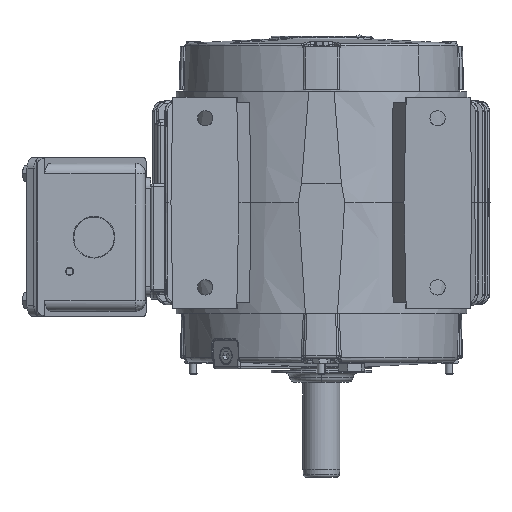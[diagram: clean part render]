
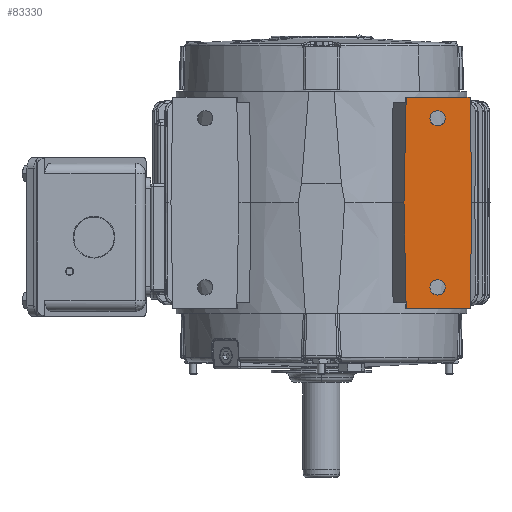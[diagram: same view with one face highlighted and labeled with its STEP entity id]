
A CAD part, front view. The second image highlights one B-rep face of the part: STEP entity #83330.
In plain terms, the highlighted planar face has unit normal (0, -1, 0).
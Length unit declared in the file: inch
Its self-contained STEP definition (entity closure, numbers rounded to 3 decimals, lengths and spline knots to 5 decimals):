
#303 = DIRECTION ( 'NONE',  ( 0.021, 0., -1. ) ) ;
#849 = DIRECTION ( 'NONE',  ( -1., 0., 0. ) ) ;
#2524 = VERTEX_POINT ( 'NONE', #86626 ) ;
#3101 = EDGE_CURVE ( 'NONE', #112494, #2524, #82790, .T. ) ;
#7913 = PLANE ( 'NONE',  #90163 ) ;
#9055 = DIRECTION ( 'NONE',  ( 1., 0., 0. ) ) ;
#9116 = CIRCLE ( 'NONE', #98679, 0.1825 ) ;
#9228 = VECTOR ( 'NONE', #14941, 39.37008 ) ;
#10482 = EDGE_CURVE ( 'NONE', #37245, #112494, #119800, .T. ) ;
#11894 = EDGE_CURVE ( 'NONE', #89383, #74786, #9116, .T. ) ;
#11959 = CIRCLE ( 'NONE', #112171, 0.1825 ) ;
#13329 = AXIS2_PLACEMENT_3D ( 'NONE', #117953, #117555, #89103 ) ;
#14941 = DIRECTION ( 'NONE',  ( 0.017, 0., -1. ) ) ;
#17614 = DIRECTION ( 'NONE',  ( 1., 0., 0. ) ) ;
#18278 = CARTESIAN_POINT ( 'NONE',  ( 3.56, -3.4845, -3.609 ) ) ;
#23498 = CARTESIAN_POINT ( 'NONE',  ( 2.00477, -3.4845, -1.109 ) ) ;
#24623 = ORIENTED_EDGE ( 'NONE', *, *, #116504, .T. ) ;
#26429 = EDGE_CURVE ( 'NONE', #114131, #91809, #61324, .T. ) ;
#28976 = LINE ( 'NONE', #85957, #37808 ) ;
#31385 = DIRECTION ( 'NONE',  ( 1., 0., 0. ) ) ;
#32680 = EDGE_CURVE ( 'NONE', #36777, #42296, #80358, .T. ) ;
#33690 = CARTESIAN_POINT ( 'NONE',  ( 2.00477, -3.4845, -6.109 ) ) ;
#36777 = VERTEX_POINT ( 'NONE', #104440 ) ;
#37245 = VERTEX_POINT ( 'NONE', #23498 ) ;
#37808 = VECTOR ( 'NONE', #849, 39.37008 ) ;
#40207 = FACE_OUTER_BOUND ( 'NONE', #69914, .T. ) ;
#42296 = VERTEX_POINT ( 'NONE', #57725 ) ;
#43884 = EDGE_CURVE ( 'NONE', #114131, #37245, #119435, .T. ) ;
#45739 = DIRECTION ( 'NONE',  ( 0., -1., 0. ) ) ;
#47042 = EDGE_CURVE ( 'NONE', #59497, #91809, #28976, .T. ) ;
#49035 = FACE_BOUND ( 'NONE', #56761, .T. ) ;
#49876 = CARTESIAN_POINT ( 'NONE',  ( 2.75, -3.4845, -5.609 ) ) ;
#55754 = CARTESIAN_POINT ( 'NONE',  ( 1.95331, -3.4845, -3.609 ) ) ;
#55962 = CARTESIAN_POINT ( 'NONE',  ( 2.75, -3.4845, -1.609 ) ) ;
#56761 = EDGE_LOOP ( 'NONE', ( #119462, #98515 ) ) ;
#56940 = ORIENTED_EDGE ( 'NONE', *, *, #32680, .F. ) ;
#57725 = CARTESIAN_POINT ( 'NONE',  ( 2.5675, -3.4845, -5.609 ) ) ;
#58897 = ORIENTED_EDGE ( 'NONE', *, *, #3101, .F. ) ;
#59497 = VERTEX_POINT ( 'NONE', #119384 ) ;
#61324 = LINE ( 'NONE', #75158, #89281 ) ;
#61860 = CARTESIAN_POINT ( 'NONE',  ( 3.56, -3.4845, -3.609 ) ) ;
#69914 = EDGE_LOOP ( 'NONE', ( #80789, #119347, #24623, #58897, #80665, #73069 ) ) ;
#70359 = DIRECTION ( 'NONE',  ( 0., -1., 0. ) ) ;
#71900 = LINE ( 'NONE', #18278, #76344 ) ;
#73069 = ORIENTED_EDGE ( 'NONE', *, *, #43884, .F. ) ;
#73166 = CARTESIAN_POINT ( 'NONE',  ( -4.5, -3.4845, -1.109 ) ) ;
#73286 = EDGE_CURVE ( 'NONE', #74786, #89383, #11959, .T. ) ;
#73763 = ORIENTED_EDGE ( 'NONE', *, *, #80372, .F. ) ;
#74786 = VERTEX_POINT ( 'NONE', #88935 ) ;
#75158 = CARTESIAN_POINT ( 'NONE',  ( 1.95335, -3.4845, -3.61074 ) ) ;
#76344 = VECTOR ( 'NONE', #102630, 39.37008 ) ;
#78274 = DIRECTION ( 'NONE',  ( 0., -1., 0. ) ) ;
#80358 = CIRCLE ( 'NONE', #13329, 0.1825 ) ;
#80372 = EDGE_CURVE ( 'NONE', #42296, #36777, #84786, .T. ) ;
#80665 = ORIENTED_EDGE ( 'NONE', *, *, #10482, .F. ) ;
#80789 = ORIENTED_EDGE ( 'NONE', *, *, #26429, .T. ) ;
#82790 = LINE ( 'NONE', #61860, #9228 ) ;
#83330 = ADVANCED_FACE ( 'NONE', ( #93214, #49035, #40207 ), #7913, .T. ) ;
#84786 = CIRCLE ( 'NONE', #104033, 0.1825 ) ;
#85957 = CARTESIAN_POINT ( 'NONE',  ( -4.5, -3.4845, -6.109 ) ) ;
#86626 = CARTESIAN_POINT ( 'NONE',  ( 3.56, -3.4845, -3.609 ) ) ;
#88779 = CARTESIAN_POINT ( 'NONE',  ( 2.9325, -3.4845, -1.609 ) ) ;
#88935 = CARTESIAN_POINT ( 'NONE',  ( 2.5675, -3.4845, -1.609 ) ) ;
#89103 = DIRECTION ( 'NONE',  ( 1., 0., 0. ) ) ;
#89281 = VECTOR ( 'NONE', #303, 39.37008 ) ;
#89383 = VERTEX_POINT ( 'NONE', #88779 ) ;
#90163 = AXIS2_PLACEMENT_3D ( 'NONE', #102120, #45739, #111606 ) ;
#91809 = VERTEX_POINT ( 'NONE', #33690 ) ;
#91884 = CARTESIAN_POINT ( 'NONE',  ( 3.51636, -3.4845, -1.109 ) ) ;
#93214 = FACE_BOUND ( 'NONE', #114846, .T. ) ;
#95778 = VECTOR ( 'NONE', #96620, 39.37008 ) ;
#96620 = DIRECTION ( 'NONE',  ( 0.021, 0., 1. ) ) ;
#98515 = ORIENTED_EDGE ( 'NONE', *, *, #73286, .F. ) ;
#98679 = AXIS2_PLACEMENT_3D ( 'NONE', #117275, #70359, #116428 ) ;
#101367 = CARTESIAN_POINT ( 'NONE',  ( 1.95335, -3.4845, -3.60726 ) ) ;
#102120 = CARTESIAN_POINT ( 'NONE',  ( 4.5, -3.4845, -6.109 ) ) ;
#102630 = DIRECTION ( 'NONE',  ( 0.017, 0., 1. ) ) ;
#104033 = AXIS2_PLACEMENT_3D ( 'NONE', #49876, #78274, #31385 ) ;
#104440 = CARTESIAN_POINT ( 'NONE',  ( 2.9325, -3.4845, -5.609 ) ) ;
#105108 = VECTOR ( 'NONE', #17614, 39.37008 ) ;
#111606 = DIRECTION ( 'NONE',  ( 1., 0., 0. ) ) ;
#112171 = AXIS2_PLACEMENT_3D ( 'NONE', #55962, #121859, #9055 ) ;
#112494 = VERTEX_POINT ( 'NONE', #91884 ) ;
#114131 = VERTEX_POINT ( 'NONE', #55754 ) ;
#114846 = EDGE_LOOP ( 'NONE', ( #56940, #73763 ) ) ;
#116428 = DIRECTION ( 'NONE',  ( 1., 0., 0. ) ) ;
#116504 = EDGE_CURVE ( 'NONE', #59497, #2524, #71900, .T. ) ;
#117275 = CARTESIAN_POINT ( 'NONE',  ( 2.75, -3.4845, -1.609 ) ) ;
#117555 = DIRECTION ( 'NONE',  ( 0., -1., 0. ) ) ;
#117953 = CARTESIAN_POINT ( 'NONE',  ( 2.75, -3.4845, -5.609 ) ) ;
#119347 = ORIENTED_EDGE ( 'NONE', *, *, #47042, .F. ) ;
#119384 = CARTESIAN_POINT ( 'NONE',  ( 3.51636, -3.4845, -6.109 ) ) ;
#119435 = LINE ( 'NONE', #101367, #95778 ) ;
#119462 = ORIENTED_EDGE ( 'NONE', *, *, #11894, .F. ) ;
#119800 = LINE ( 'NONE', #73166, #105108 ) ;
#121859 = DIRECTION ( 'NONE',  ( 0., -1., 0. ) ) ;
